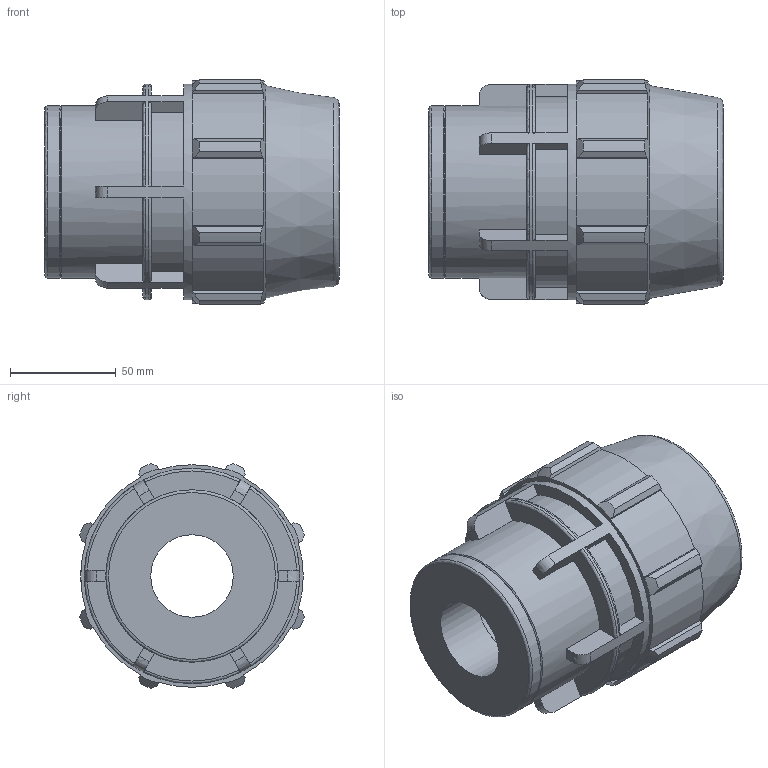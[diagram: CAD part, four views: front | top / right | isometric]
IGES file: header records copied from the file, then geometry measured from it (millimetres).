
Global section: file name: 070300063013_180300063013_0703060630130A.ipt; native system: Autodesk Inventor 2015; preprocessor: unknown; author: KIM; date: 20170606.110438; units: millimetre
Bounding box: 139 x 106.32 x 106.32 mm (x, y, z)
Volume: 577262.5 mm3; surface area: 87708.7 mm2
Topology: 1 solids, 1 shells, 148 faces, 413 edges, 277 vertices
Faces by surface type: plane 86, revolution 25, cylinder 25, cone 12
Full cylindrical faces by diameter (mm): 81.36 x2, 101.7 x1
